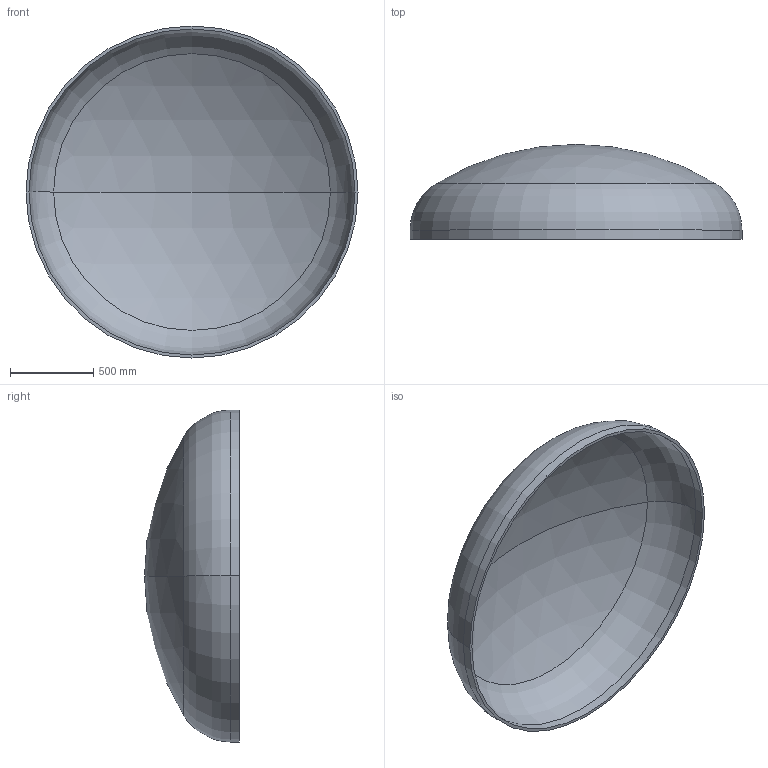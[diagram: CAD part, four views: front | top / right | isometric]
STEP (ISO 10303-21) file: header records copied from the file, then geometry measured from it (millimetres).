
FILE_DESCRIPTION (( 'STEP AP203' ), '1' );
FILE_NAME ('DIN 28013 Korbbogenform_-_Boden DIN 28013 - 2000 x 55 - I - s=18.step', '2016-07-01T13:40:13', ( '' ), ( '' ), 'SwSTEP 2.0', 'SolidWorks 2013', '' );
FILE_SCHEMA (( 'CONFIG_CONTROL_DESIGN' ));
Length unit declared in the file: millimetre
Products named in the file (1): DIN 28013 Korbbogenform_-_Boden DIN 28013 - 2000 x 55 - I - s=18
Bounding box: 2000 x 571.86 x 2000 mm (x, y, z)
Volume: 83655434.6 mm3; surface area: 9407802.9 mm2
Topology: 1 solids, 1 shells, 13 faces, 24 edges, 14 vertices
Faces by surface type: torus 4, cylinder 4, sphere 4, plane 1
Entity records: 407 total; most frequent: DIRECTION 72, CARTESIAN_POINT 52, ORIENTED_EDGE 48, AXIS2_PLACEMENT_3D 34, EDGE_CURVE 24, CIRCLE 20, EDGE_LOOP 14, VERTEX_POINT 14
